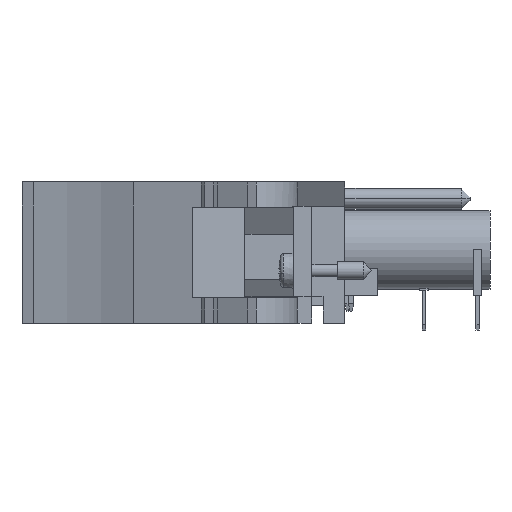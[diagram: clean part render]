
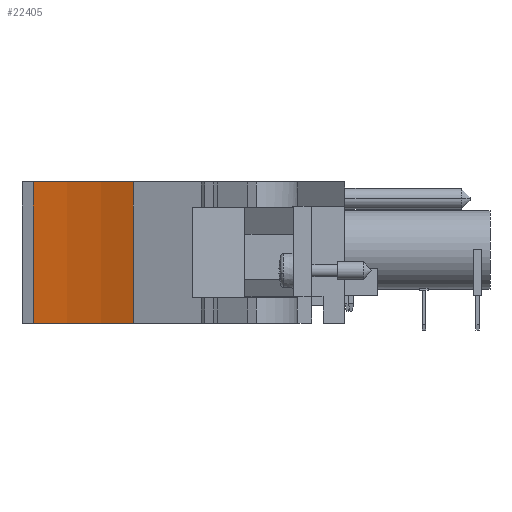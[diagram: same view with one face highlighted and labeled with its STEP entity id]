
A CAD part, front view. The second image highlights one B-rep face of the part: STEP entity #22405.
In plain terms, the highlighted cylindrical face has radius 51.46 mm (diameter 102.919 mm), a partial arc.
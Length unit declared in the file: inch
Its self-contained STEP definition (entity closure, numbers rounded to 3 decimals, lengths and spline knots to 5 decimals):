
#15133=CARTESIAN_POINT('',(-1.97633,-5.95079,0.695));
#15134=DIRECTION('',(0.,0.,-1.));
#15135=DIRECTION('',(0.16,0.987,0.));
#15136=AXIS2_PLACEMENT_3D('',#15133,#15134,#15135);
#15526=CARTESIAN_POINT('',(-1.97633,-5.95079,-0.093));
#15527=DIRECTION('',(0.,0.,-1.));
#15528=DIRECTION('',(0.16,0.987,0.));
#15529=AXIS2_PLACEMENT_3D('',#15526,#15527,#15528);
#15748=DIRECTION('',(0.,0.,-1.));
#15749=VECTOR('',#15748,0.788);
#15750=CARTESIAN_POINT('',(-1.653,-3.95079,0.695));
#15751=LINE('',#15750,#15749);
#15752=DIRECTION('',(0.,0.,1.));
#15753=VECTOR('',#15752,0.788);
#15754=CARTESIAN_POINT('',(-1.09503,-4.12655,-0.093));
#15755=LINE('',#15754,#15753);
#17460=CARTESIAN_POINT('',(-1.653,-3.95079,0.695));
#17461=CARTESIAN_POINT('',(-1.653,-3.95079,-0.093));
#17462=VERTEX_POINT('',#17460);
#17463=VERTEX_POINT('',#17461);
#17556=CARTESIAN_POINT('',(-1.09503,-4.12655,-0.093));
#17557=CARTESIAN_POINT('',(-1.09503,-4.12655,0.695));
#17558=VERTEX_POINT('',#17556);
#17559=VERTEX_POINT('',#17557);
#22393=CARTESIAN_POINT('',(-1.97633,-5.95079,-0.10876));
#22394=DIRECTION('',(0.,0.,1.));
#22395=DIRECTION('',(0.,1.,0.));
#22396=AXIS2_PLACEMENT_3D('',#22393,#22394,#22395);
#22397=CYLINDRICAL_SURFACE('',#22396,2.02597);
#22398=ORIENTED_EDGE('',*,*,#22111,.F.);
#22399=ORIENTED_EDGE('',*,*,#22385,.F.);
#22400=ORIENTED_EDGE('',*,*,#21660,.T.);
#22402=ORIENTED_EDGE('',*,*,#22401,.F.);
#22403=EDGE_LOOP('',(#22398,#22399,#22400,#22402));
#22404=FACE_OUTER_BOUND('',#22403,.F.);
#22405=ADVANCED_FACE('',(#22404),#22397,.F.);
#15137=CIRCLE('',#15136,2.02597);
#15530=CIRCLE('',#15529,2.02597);
#21660=EDGE_CURVE('',#17462,#17559,#15137,.T.);
#22111=EDGE_CURVE('',#17463,#17558,#15530,.T.);
#22385=EDGE_CURVE('',#17462,#17463,#15751,.T.);
#22401=EDGE_CURVE('',#17558,#17559,#15755,.T.);
